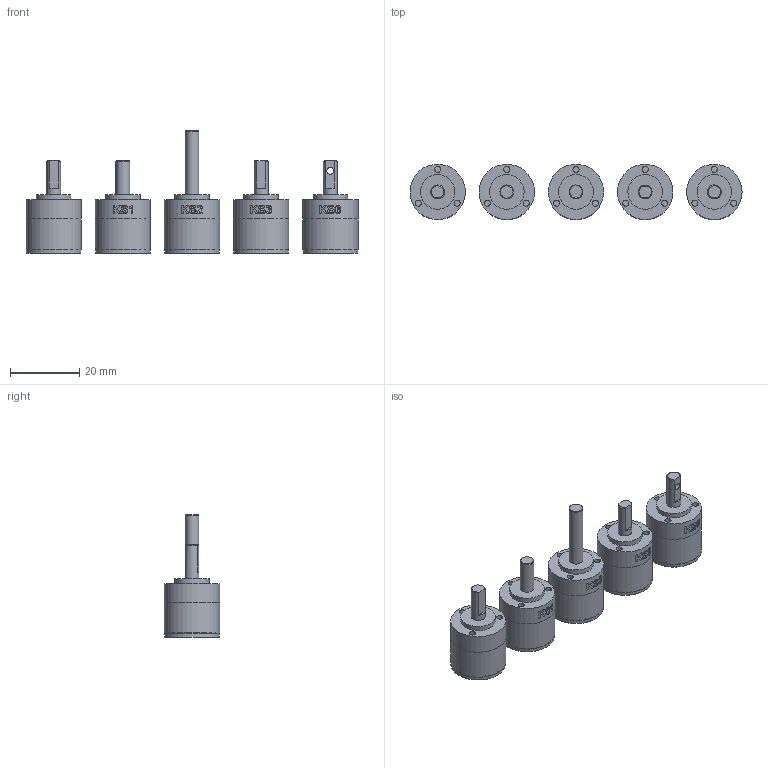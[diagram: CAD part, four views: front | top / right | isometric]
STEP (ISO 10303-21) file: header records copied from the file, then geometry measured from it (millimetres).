
FILE_DESCRIPTION(/* description */ (''),/* implementation_level */ '2;1');
FILE_NAME(/* name */ '16GPT-1stage_standard+KSx.stp',/* time_stamp */ '2024-11-12T10:31:43+01:00',/* author */ ('DR. FRITZ FAULHABER GmbH & Co. KG'),/* organization */ ('DR. FRITZ FAULHABER GmbH & Co. KG'),/* preprocessor_version */ 'ST-DEVELOPER v19.3',/* originating_system */ 'SIEMENS PLM Software NX2212.4000',/* authorisation */ '');
FILE_SCHEMA (('AUTOMOTIVE_DESIGN { 1 0 10303 214 3 1 1 1 }'));
Length unit declared in the file: millimetre
Products named in the file (1): A_objects
Bounding box: 96 x 16 x 35.4 mm (x, y, z)
Volume: 14831.6 mm3; surface area: 7766.1 mm2
Topology: 5 solids, 5 shells, 251 faces, 523 edges, 355 vertices
Faces by surface type: plane 114, cylinder 79, bspline 52, cone 6
Full cylindrical faces by diameter (mm): 1.75 x15, 2 x1, 2.902 x5, 4 x5, 10 x5, 10.6 x5, 14.8 x5, 15.4 x5, 15.8 x5, 15.999 x5, 16 x10
Entity records: 12043 total; most frequent: CARTESIAN_POINT 6735, ORIENTED_EDGE 860, DIRECTION 777, EDGE_CURVE 430, EDGE_LOOP 395, AXIS2_PLACEMENT_3D 362, VERTEX_POINT 331, FACE_BOUND 260
